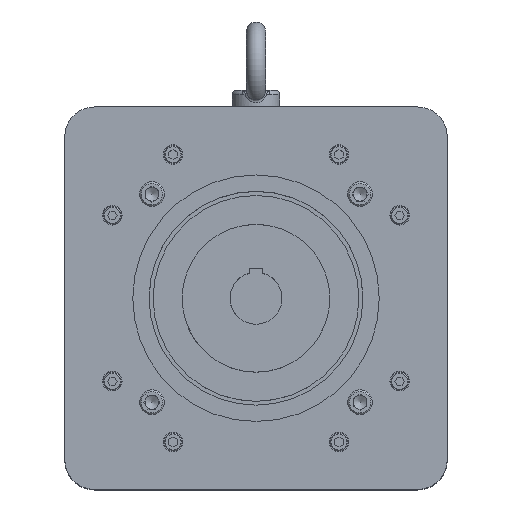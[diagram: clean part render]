
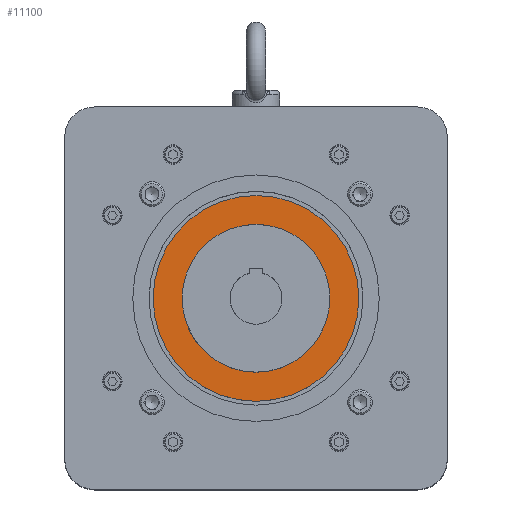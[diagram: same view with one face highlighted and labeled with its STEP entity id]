
A CAD part, top view. The second image highlights one B-rep face of the part: STEP entity #11100.
In plain terms, the highlighted planar face has unit normal (0, 0, 1).
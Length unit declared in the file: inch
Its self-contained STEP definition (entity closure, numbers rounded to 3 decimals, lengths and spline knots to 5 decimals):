
#3155 = CIRCLE ( 'NONE', #19416, 2.96 ) ;
#6091 = CARTESIAN_POINT ( 'NONE',  ( 0., 2.125, 15.7702 ) ) ;
#7040 = AXIS2_PLACEMENT_3D ( 'NONE', #6091, #33285, #19568 ) ;
#10325 = CARTESIAN_POINT ( 'NONE',  ( 2.125, 0., 15.7702 ) ) ;
#11100 = ADVANCED_FACE ( 'NONE', ( #22903, #23125 ), #39701, .F. ) ;
#13205 = VERTEX_POINT ( 'NONE', #13427 ) ;
#13427 = CARTESIAN_POINT ( 'NONE',  ( 2.96, 0., 15.7702 ) ) ;
#13657 = DIRECTION ( 'NONE',  ( 0., 0., 1. ) ) ;
#13766 = CIRCLE ( 'NONE', #42708, 2.125 ) ;
#19416 = AXIS2_PLACEMENT_3D ( 'NONE', #19641, #13657, #37111 ) ;
#19568 = DIRECTION ( 'NONE',  ( -1., 0., 0. ) ) ;
#19641 = CARTESIAN_POINT ( 'NONE',  ( 0., 0., 15.7702 ) ) ;
#22903 = FACE_BOUND ( 'NONE', #24326, .T. ) ;
#23125 = FACE_OUTER_BOUND ( 'NONE', #27397, .T. ) ;
#24326 = EDGE_LOOP ( 'NONE', ( #32104 ) ) ;
#26524 = EDGE_CURVE ( 'NONE', #13205, #13205, #3155, .T. ) ;
#26538 = EDGE_CURVE ( 'NONE', #37772, #37772, #13766, .T. ) ;
#27153 = CARTESIAN_POINT ( 'NONE',  ( 0., 0., 15.7702 ) ) ;
#27397 = EDGE_LOOP ( 'NONE', ( #40081 ) ) ;
#31778 = DIRECTION ( 'NONE',  ( 0., 0., 1. ) ) ;
#32104 = ORIENTED_EDGE ( 'NONE', *, *, #26538, .F. ) ;
#33285 = DIRECTION ( 'NONE',  ( 0., 0., -1. ) ) ;
#37111 = DIRECTION ( 'NONE',  ( 1., 0., 0. ) ) ;
#37563 = DIRECTION ( 'NONE',  ( 1., 0., 0. ) ) ;
#37772 = VERTEX_POINT ( 'NONE', #10325 ) ;
#39701 = PLANE ( 'NONE',  #7040 ) ;
#40081 = ORIENTED_EDGE ( 'NONE', *, *, #26524, .T. ) ;
#42708 = AXIS2_PLACEMENT_3D ( 'NONE', #27153, #31778, #37563 ) ;
